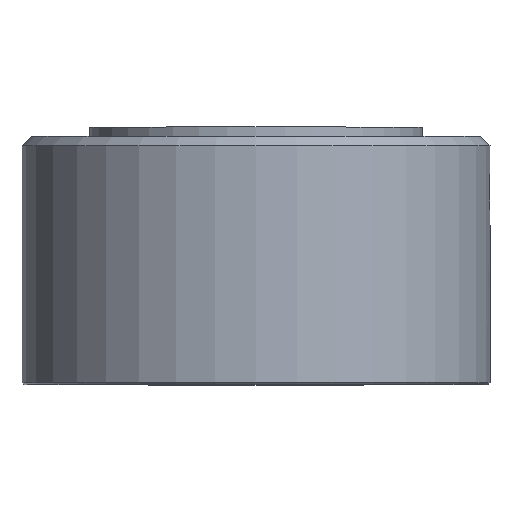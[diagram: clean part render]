
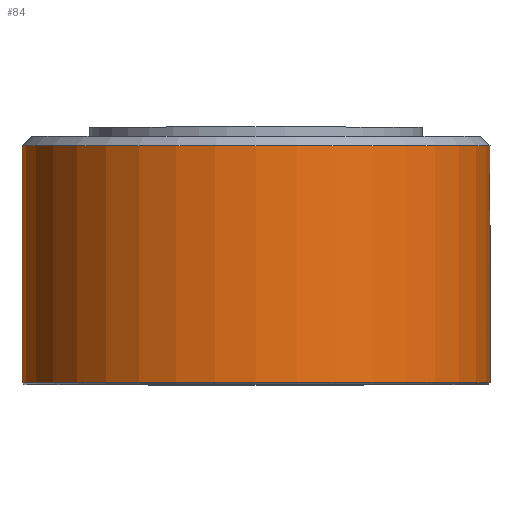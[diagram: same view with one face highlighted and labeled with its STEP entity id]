
A CAD part, top view. The second image highlights one B-rep face of the part: STEP entity #84.
In plain terms, the highlighted cylindrical face has radius 25 mm (diameter 50 mm), a full revolution.
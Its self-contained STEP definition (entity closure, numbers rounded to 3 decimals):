
#84 = ADVANCED_FACE( '', ( #119, #120, #121 ), #122, .T. );
#119 = FACE_OUTER_BOUND( '', #169, .T. );
#120 = FACE_BOUND( '', #170, .T. );
#121 = FACE_OUTER_BOUND( '', #171, .T. );
#122 = CYLINDRICAL_SURFACE( '', #172, 25. );
#169 = EDGE_LOOP( '', ( #246 ) );
#170 = EDGE_LOOP( '', ( #247 ) );
#171 = EDGE_LOOP( '', ( #248 ) );
#172 = AXIS2_PLACEMENT_3D( '', #249, #250, #251 );
#246 = ORIENTED_EDGE( '', *, *, #305, .T. );
#247 = ORIENTED_EDGE( '', *, *, #296, .T. );
#248 = ORIENTED_EDGE( '', *, *, #306, .F. );
#249 = CARTESIAN_POINT( '', ( 0., 0., 0. ) );
#250 = DIRECTION( '', ( 0., 1., 0. ) );
#251 = DIRECTION( '', ( 0., 0., -1. ) );
#296 = EDGE_CURVE( '', #325, #325, #326, .T. );
#305 = EDGE_CURVE( '', #341, #341, #342, .T. );
#306 = EDGE_CURVE( '', #343, #343, #344, .T. );
#325 = VERTEX_POINT( '', #395 );
#326 = B_SPLINE_CURVE_WITH_KNOTS( '', 3, ( #396, #397, #398, #399, #400, #401, #402, #403, #404, #405, #406, #407, #408, #409, #410, #411, #412, #413, #414, #415, #416, #417, #418, #419, #420, #421, #422, #423, #424, #425, #426, #427, #428, #429, #430, #431, #432, #433, #434, #435, #436, #437, #438, #439, #440, #441, #442, #443, #444, #445, #446, #447, #448, #449, #450, #451, #452, #453 ), .UNSPECIFIED., .T., .F., ( 2, 2, 2, 2, 2, 2, 2, 2, 2, 2, 2, 2, 2, 2, 2, 2, 2, 2, 2, 2, 2, 2, 2, 2, 2, 2, 2, 2, 2, 2, 2 ), ( -0.001, 0., 0.001, 0.001, 0.001, 0.002, 0.002, 0.003, 0.004, 0.005, 0.006, 0.007, 0.007, 0.008, 0.008, 0.008, 0.009, 0.009, 0.009, 0.009, 0.01, 0.01, 0.011, 0.013, 0.014, 0.015, 0.015, 0.016, 0.016, 0.017, 0.017 ), .UNSPECIFIED. );
#341 = VERTEX_POINT( '', #468 );
#342 = CIRCLE( '', #469, 25. );
#343 = VERTEX_POINT( '', #470 );
#344 = CIRCLE( '', #471, 25. );
#395 = CARTESIAN_POINT( '', ( 25., 17.031, 0. ) );
#396 = CARTESIAN_POINT( '', ( 25., 17.031, -0.177 ) );
#397 = CARTESIAN_POINT( '', ( 25., 17.031, 0.177 ) );
#398 = CARTESIAN_POINT( '', ( 24.998, 17.094, 0.346 ) );
#399 = CARTESIAN_POINT( '', ( 24.994, 17.24, 0.564 ) );
#400 = CARTESIAN_POINT( '', ( 24.992, 17.298, 0.631 ) );
#401 = CARTESIAN_POINT( '', ( 24.989, 17.421, 0.754 ) );
#402 = CARTESIAN_POINT( '', ( 24.987, 17.487, 0.81 ) );
#403 = CARTESIAN_POINT( '', ( 24.982, 17.696, 0.966 ) );
#404 = CARTESIAN_POINT( '', ( 24.978, 17.848, 1.053 ) );
#405 = CARTESIAN_POINT( '', ( 24.971, 18.161, 1.202 ) );
#406 = CARTESIAN_POINT( '', ( 24.968, 18.322, 1.264 ) );
#407 = CARTESIAN_POINT( '', ( 24.96, 18.819, 1.425 ) );
#408 = CARTESIAN_POINT( '', ( 24.955, 19.158, 1.494 ) );
#409 = CARTESIAN_POINT( '', ( 24.95, 19.84, 1.584 ) );
#410 = CARTESIAN_POINT( '', ( 24.949, 20.184, 1.603 ) );
#411 = CARTESIAN_POINT( '', ( 24.949, 20.879, 1.596 ) );
#412 = CARTESIAN_POINT( '', ( 24.951, 21.222, 1.57 ) );
#413 = CARTESIAN_POINT( '', ( 24.957, 21.902, 1.471 ) );
#414 = CARTESIAN_POINT( '', ( 24.961, 22.238, 1.398 ) );
#415 = CARTESIAN_POINT( '', ( 24.969, 22.735, 1.239 ) );
#416 = CARTESIAN_POINT( '', ( 24.972, 22.898, 1.177 ) );
#417 = CARTESIAN_POINT( '', ( 24.979, 23.212, 1.034 ) );
#418 = CARTESIAN_POINT( '', ( 24.982, 23.363, 0.952 ) );
#419 = CARTESIAN_POINT( '', ( 24.989, 23.65, 0.756 ) );
#420 = CARTESIAN_POINT( '', ( 24.992, 23.785, 0.641 ) );
#421 = CARTESIAN_POINT( '', ( 24.996, 23.945, 0.432 ) );
#422 = CARTESIAN_POINT( '', ( 24.998, 23.991, 0.355 ) );
#423 = CARTESIAN_POINT( '', ( 24.999, 24.057, 0.193 ) );
#424 = CARTESIAN_POINT( '', ( 25., 24.077, 0.105 ) );
#425 = CARTESIAN_POINT( '', ( 25., 24.081, -0.069 ) );
#426 = CARTESIAN_POINT( '', ( 25., 24.066, -0.158 ) );
#427 = CARTESIAN_POINT( '', ( 24.998, 24.008, -0.323 ) );
#428 = CARTESIAN_POINT( '', ( 24.997, 23.964, -0.402 ) );
#429 = CARTESIAN_POINT( '', ( 24.994, 23.863, -0.543 ) );
#430 = CARTESIAN_POINT( '', ( 24.993, 23.803, -0.609 ) );
#431 = CARTESIAN_POINT( '', ( 24.989, 23.675, -0.729 ) );
#432 = CARTESIAN_POINT( '', ( 24.988, 23.607, -0.783 ) );
#433 = CARTESIAN_POINT( '', ( 24.983, 23.394, -0.935 ) );
#434 = CARTESIAN_POINT( '', ( 24.979, 23.239, -1.02 ) );
#435 = CARTESIAN_POINT( '', ( 24.973, 22.924, -1.167 ) );
#436 = CARTESIAN_POINT( '', ( 24.97, 22.762, -1.229 ) );
#437 = CARTESIAN_POINT( '', ( 24.962, 22.267, -1.391 ) );
#438 = CARTESIAN_POINT( '', ( 24.957, 21.924, -1.467 ) );
#439 = CARTESIAN_POINT( '', ( 24.951, 21.24, -1.568 ) );
#440 = CARTESIAN_POINT( '', ( 24.949, 20.896, -1.595 ) );
#441 = CARTESIAN_POINT( '', ( 24.949, 20.206, -1.604 ) );
#442 = CARTESIAN_POINT( '', ( 24.95, 19.858, -1.585 ) );
#443 = CARTESIAN_POINT( '', ( 24.955, 19.167, -1.496 ) );
#444 = CARTESIAN_POINT( '', ( 24.959, 18.827, -1.427 ) );
#445 = CARTESIAN_POINT( '', ( 24.968, 18.328, -1.266 ) );
#446 = CARTESIAN_POINT( '', ( 24.971, 18.165, -1.204 ) );
#447 = CARTESIAN_POINT( '', ( 24.978, 17.852, -1.055 ) );
#448 = CARTESIAN_POINT( '', ( 24.981, 17.699, -0.968 ) );
#449 = CARTESIAN_POINT( '', ( 24.989, 17.419, -0.759 ) );
#450 = CARTESIAN_POINT( '', ( 24.992, 17.29, -0.637 ) );
#451 = CARTESIAN_POINT( '', ( 24.998, 17.095, -0.348 ) );
#452 = CARTESIAN_POINT( '', ( 25., 17.031, -0.177 ) );
#453 = CARTESIAN_POINT( '', ( 25., 17.031, 0.177 ) );
#468 = CARTESIAN_POINT( '', ( 0., 25.5, -25. ) );
#469 = AXIS2_PLACEMENT_3D( '', #541, #542, #543 );
#470 = CARTESIAN_POINT( '', ( 0., 0.2, -25. ) );
#471 = AXIS2_PLACEMENT_3D( '', #544, #545, #546 );
#541 = CARTESIAN_POINT( '', ( 0., 25.5, 0. ) );
#542 = DIRECTION( '', ( 0., -1., 0. ) );
#543 = DIRECTION( '', ( 0., 0., -1. ) );
#544 = CARTESIAN_POINT( '', ( 0., 0.2, 0. ) );
#545 = DIRECTION( '', ( 0., -1., 0. ) );
#546 = DIRECTION( '', ( 0., 0., -1. ) );
